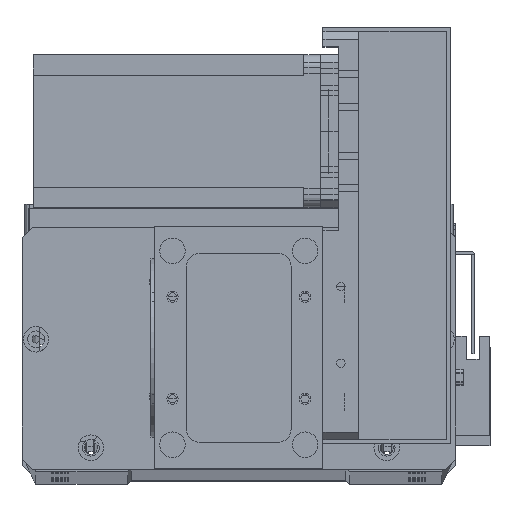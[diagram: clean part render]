
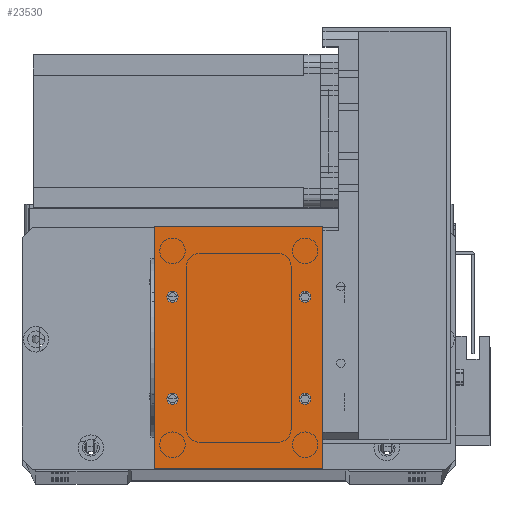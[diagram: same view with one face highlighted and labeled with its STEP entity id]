
A CAD part, top view. The second image highlights one B-rep face of the part: STEP entity #23530.
In plain terms, the highlighted planar face has unit normal (0, 0, 1).
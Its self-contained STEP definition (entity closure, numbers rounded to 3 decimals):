
#468 = DIRECTION ( 'NONE',  ( 0., 0., 1. ) ) ;
#573 = EDGE_CURVE ( 'NONE', #1314, #21203, #24236, .T. ) ;
#737 = CARTESIAN_POINT ( 'NONE',  ( 4.75, 27.5, 2. ) ) ;
#855 = EDGE_CURVE ( 'NONE', #33613, #14966, #32483, .T. ) ;
#878 = AXIS2_PLACEMENT_3D ( 'NONE', #29244, #13460, #31895 ) ;
#939 = CARTESIAN_POINT ( 'NONE',  ( 56.75, 27.5, 2. ) ) ;
#1147 = EDGE_CURVE ( 'NONE', #27092, #4893, #3618, .T. ) ;
#1314 = VERTEX_POINT ( 'NONE', #18234 ) ;
#1369 = CARTESIAN_POINT ( 'NONE',  ( 9.25, 27.5, 2. ) ) ;
#1513 = AXIS2_PLACEMENT_3D ( 'NONE', #19354, #3500, #21987 ) ;
#1903 = AXIS2_PLACEMENT_3D ( 'NONE', #10294, #28728, #12928 ) ;
#2098 = CIRCLE ( 'NONE', #878, 2.25 ) ;
#2814 = ORIENTED_EDGE ( 'NONE', *, *, #573, .T. ) ;
#3055 = VERTEX_POINT ( 'NONE', #939 ) ;
#3500 = DIRECTION ( 'NONE',  ( 0., 0., 1. ) ) ;
#3557 = ORIENTED_EDGE ( 'NONE', *, *, #19031, .F. ) ;
#3618 = CIRCLE ( 'NONE', #33749, 2.25 ) ;
#3910 = FACE_OUTER_BOUND ( 'NONE', #29867, .T. ) ;
#4126 = CIRCLE ( 'NONE', #33154, 2.25 ) ;
#4613 = ORIENTED_EDGE ( 'NONE', *, *, #21958, .T. ) ;
#4893 = VERTEX_POINT ( 'NONE', #1369 ) ;
#5936 = CARTESIAN_POINT ( 'NONE',  ( 0., 0., 2. ) ) ;
#6250 = LINE ( 'NONE', #11075, #12459 ) ;
#7030 = CARTESIAN_POINT ( 'NONE',  ( 7., 27.5, 2. ) ) ;
#7320 = VECTOR ( 'NONE', #22237, 1000. ) ;
#7549 = CARTESIAN_POINT ( 'NONE',  ( 9.25, 67.5, 2. ) ) ;
#7867 = CIRCLE ( 'NONE', #15875, 2.25 ) ;
#8111 = CARTESIAN_POINT ( 'NONE',  ( 7., 27.5, 2. ) ) ;
#8606 = AXIS2_PLACEMENT_3D ( 'NONE', #9059, #27494, #11698 ) ;
#8611 = DIRECTION ( 'NONE',  ( -1., 0., 0. ) ) ;
#9004 = EDGE_CURVE ( 'NONE', #28694, #17016, #14085, .T. ) ;
#9059 = CARTESIAN_POINT ( 'NONE',  ( 7., 67.5, 2. ) ) ;
#9629 = CARTESIAN_POINT ( 'NONE',  ( 7., 67.5, 2. ) ) ;
#9694 = DIRECTION ( 'NONE',  ( 1., 0., 0. ) ) ;
#9875 = EDGE_CURVE ( 'NONE', #4893, #27092, #4126, .T. ) ;
#10211 = VECTOR ( 'NONE', #17555, 1000. ) ;
#10238 = CARTESIAN_POINT ( 'NONE',  ( 66., 95., 2. ) ) ;
#10291 = CARTESIAN_POINT ( 'NONE',  ( 61.25, 27.5, 2. ) ) ;
#10294 = CARTESIAN_POINT ( 'NONE',  ( 59., 67.5, 2. ) ) ;
#10347 = VERTEX_POINT ( 'NONE', #10291 ) ;
#10761 = DIRECTION ( 'NONE',  ( 1., 0., 0. ) ) ;
#10924 = FACE_BOUND ( 'NONE', #17921, .T. ) ;
#11075 = CARTESIAN_POINT ( 'NONE',  ( 0., 0., 2. ) ) ;
#11592 = CARTESIAN_POINT ( 'NONE',  ( 0., 0., 2. ) ) ;
#11698 = DIRECTION ( 'NONE',  ( 1., 0., 0. ) ) ;
#12287 = DIRECTION ( 'NONE',  ( 1., 0., 0. ) ) ;
#12459 = VECTOR ( 'NONE', #13837, 1000. ) ;
#12793 = CIRCLE ( 'NONE', #1513, 2.25 ) ;
#12928 = DIRECTION ( 'NONE',  ( 1., 0., 0. ) ) ;
#13460 = DIRECTION ( 'NONE',  ( 0., 0., 1. ) ) ;
#13510 = CARTESIAN_POINT ( 'NONE',  ( 0., 95., 2. ) ) ;
#13620 = EDGE_CURVE ( 'NONE', #21203, #31010, #14730, .T. ) ;
#13647 = CARTESIAN_POINT ( 'NONE',  ( 0., 95., 2. ) ) ;
#13758 = CARTESIAN_POINT ( 'NONE',  ( 56.75, 67.5, 2. ) ) ;
#13837 = DIRECTION ( 'NONE',  ( 1., 0., 0. ) ) ;
#14085 = CIRCLE ( 'NONE', #33380, 2.25 ) ;
#14350 = LINE ( 'NONE', #11592, #7320 ) ;
#14730 = LINE ( 'NONE', #13510, #27913 ) ;
#14966 = VERTEX_POINT ( 'NONE', #13758 ) ;
#15202 = ORIENTED_EDGE ( 'NONE', *, *, #9004, .F. ) ;
#15875 = AXIS2_PLACEMENT_3D ( 'NONE', #16273, #468, #18938 ) ;
#16160 = DIRECTION ( 'NONE',  ( -1., 0., 0. ) ) ;
#16273 = CARTESIAN_POINT ( 'NONE',  ( 59., 27.5, 2. ) ) ;
#16485 = PLANE ( 'NONE',  #26564 ) ;
#17016 = VERTEX_POINT ( 'NONE', #28467 ) ;
#17555 = DIRECTION ( 'NONE',  ( 0., 1., 0. ) ) ;
#17632 = EDGE_LOOP ( 'NONE', ( #20213, #25237 ) ) ;
#17921 = EDGE_LOOP ( 'NONE', ( #24608, #32552 ) ) ;
#17962 = FACE_BOUND ( 'NONE', #33603, .T. ) ;
#18234 = CARTESIAN_POINT ( 'NONE',  ( 66., 0., 2. ) ) ;
#18722 = EDGE_CURVE ( 'NONE', #14966, #33613, #2098, .T. ) ;
#18805 = EDGE_LOOP ( 'NONE', ( #15202, #23304 ) ) ;
#18938 = DIRECTION ( 'NONE',  ( 1., 0., 0. ) ) ;
#19031 = EDGE_CURVE ( 'NONE', #3055, #10347, #7867, .T. ) ;
#19354 = CARTESIAN_POINT ( 'NONE',  ( 59., 27.5, 2. ) ) ;
#19796 = EDGE_CURVE ( 'NONE', #10347, #3055, #12793, .T. ) ;
#19851 = EDGE_CURVE ( 'NONE', #17016, #28694, #24324, .T. ) ;
#20213 = ORIENTED_EDGE ( 'NONE', *, *, #855, .F. ) ;
#21203 = VERTEX_POINT ( 'NONE', #10238 ) ;
#21958 = EDGE_CURVE ( 'NONE', #31010, #23282, #14350, .T. ) ;
#21987 = DIRECTION ( 'NONE',  ( 1., 0., 0. ) ) ;
#22237 = DIRECTION ( 'NONE',  ( 0., -1., 0. ) ) ;
#23282 = VERTEX_POINT ( 'NONE', #26122 ) ;
#23304 = ORIENTED_EDGE ( 'NONE', *, *, #19851, .F. ) ;
#23530 = ADVANCED_FACE ( 'NONE', ( #31973, #33631, #17962, #10924, #3910 ), #16485, .F. ) ;
#24236 = LINE ( 'NONE', #30679, #10211 ) ;
#24324 = CIRCLE ( 'NONE', #8606, 2.25 ) ;
#24398 = DIRECTION ( 'NONE',  ( 0., 0., -1. ) ) ;
#24572 = CARTESIAN_POINT ( 'NONE',  ( 61.25, 67.5, 2. ) ) ;
#24608 = ORIENTED_EDGE ( 'NONE', *, *, #9875, .F. ) ;
#25237 = ORIENTED_EDGE ( 'NONE', *, *, #18722, .F. ) ;
#25491 = DIRECTION ( 'NONE',  ( 0., 0., 1. ) ) ;
#26122 = CARTESIAN_POINT ( 'NONE',  ( 0., 0., 2. ) ) ;
#26547 = DIRECTION ( 'NONE',  ( 0., 0., 1. ) ) ;
#26564 = AXIS2_PLACEMENT_3D ( 'NONE', #5936, #24398, #8611 ) ;
#26626 = ORIENTED_EDGE ( 'NONE', *, *, #13620, .T. ) ;
#27092 = VERTEX_POINT ( 'NONE', #737 ) ;
#27494 = DIRECTION ( 'NONE',  ( 0., 0., 1. ) ) ;
#27778 = EDGE_CURVE ( 'NONE', #23282, #1314, #6250, .T. ) ;
#27913 = VECTOR ( 'NONE', #16160, 1000. ) ;
#28071 = DIRECTION ( 'NONE',  ( 0., 0., 1. ) ) ;
#28467 = CARTESIAN_POINT ( 'NONE',  ( 4.75, 67.5, 2. ) ) ;
#28694 = VERTEX_POINT ( 'NONE', #7549 ) ;
#28728 = DIRECTION ( 'NONE',  ( 0., 0., 1. ) ) ;
#29244 = CARTESIAN_POINT ( 'NONE',  ( 59., 67.5, 2. ) ) ;
#29867 = EDGE_LOOP ( 'NONE', ( #4613, #33934, #2814, #26626 ) ) ;
#30679 = CARTESIAN_POINT ( 'NONE',  ( 66., 0., 2. ) ) ;
#30853 = ORIENTED_EDGE ( 'NONE', *, *, #19796, .F. ) ;
#31010 = VERTEX_POINT ( 'NONE', #13647 ) ;
#31895 = DIRECTION ( 'NONE',  ( 1., 0., 0. ) ) ;
#31973 = FACE_BOUND ( 'NONE', #18805, .T. ) ;
#32483 = CIRCLE ( 'NONE', #1903, 2.25 ) ;
#32552 = ORIENTED_EDGE ( 'NONE', *, *, #1147, .F. ) ;
#33154 = AXIS2_PLACEMENT_3D ( 'NONE', #8111, #26547, #10761 ) ;
#33380 = AXIS2_PLACEMENT_3D ( 'NONE', #9629, #28071, #12287 ) ;
#33603 = EDGE_LOOP ( 'NONE', ( #30853, #3557 ) ) ;
#33613 = VERTEX_POINT ( 'NONE', #24572 ) ;
#33631 = FACE_BOUND ( 'NONE', #17632, .T. ) ;
#33749 = AXIS2_PLACEMENT_3D ( 'NONE', #7030, #25491, #9694 ) ;
#33934 = ORIENTED_EDGE ( 'NONE', *, *, #27778, .T. ) ;
